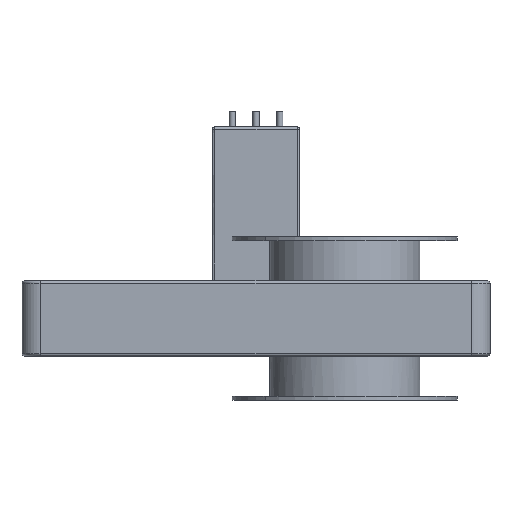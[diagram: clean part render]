
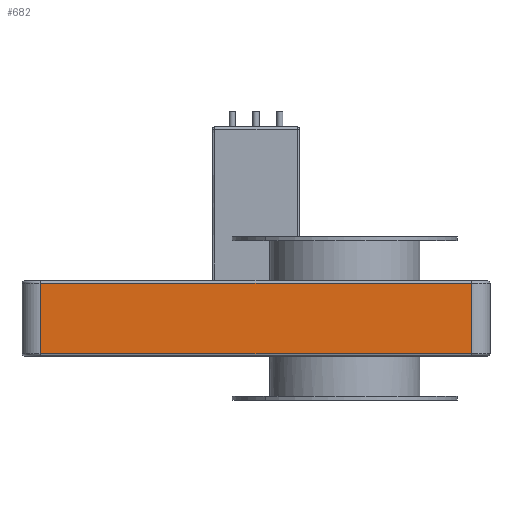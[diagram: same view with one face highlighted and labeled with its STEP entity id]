
A CAD part, front view. The second image highlights one B-rep face of the part: STEP entity #682.
In plain terms, the highlighted free-form (B-spline) face has degree [1, 1] with [2, 2] control points.
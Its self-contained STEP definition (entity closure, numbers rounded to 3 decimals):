
#627=CARTESIAN_POINT('',(-242.91,-95.5,-28.));
#628=VERTEX_POINT('',#627);
#637=CARTESIAN_POINT('',(-242.91,-95.5,28.));
#638=VERTEX_POINT('',#637);
#639=CARTESIAN_POINT('',(-242.91,-95.5,28.));
#640=CARTESIAN_POINT('',(-242.91,-95.5,-28.));
#641=B_SPLINE_CURVE_WITH_KNOTS('',1,(#639,#640),.POLYLINE_FORM.,.F.,.U.,(2,2),(0.033,0.967),.UNSPECIFIED.);
#642=EDGE_CURVE('',#638,#628,#641,.T.);
#655=CARTESIAN_POINT('',(-242.91,-95.5,30.));
#656=CARTESIAN_POINT('',(-242.91,-95.5,-30.));
#657=CARTESIAN_POINT('',(100.909,-95.5,30.));
#658=CARTESIAN_POINT('',(100.909,-95.5,-30.));
#659=B_SPLINE_SURFACE_WITH_KNOTS('',1,1,((#655,#656),(#657,#658)),.PLANE_SURF.,.F.,.F.,.U.,(2,2),(2,2),(0.,1.),(0.,1.),.UNSPECIFIED.);
#660=ORIENTED_EDGE('',*,*,#642,.F.);
#661=CARTESIAN_POINT('',(100.909,-95.5,28.));
#662=VERTEX_POINT('',#661);
#663=CARTESIAN_POINT('',(-242.91,-95.5,28.));
#664=CARTESIAN_POINT('',(100.909,-95.5,28.));
#665=B_SPLINE_CURVE_WITH_KNOTS('',1,(#663,#664),.POLYLINE_FORM.,.F.,.U.,(2,2),(0.,1.),.UNSPECIFIED.);
#666=EDGE_CURVE('',#638,#662,#665,.T.);
#667=ORIENTED_EDGE('',*,*,#666,.T.);
#668=CARTESIAN_POINT('',(100.909,-95.5,-28.));
#669=VERTEX_POINT('',#668);
#670=CARTESIAN_POINT('',(100.909,-95.5,28.));
#671=CARTESIAN_POINT('',(100.909,-95.5,-28.));
#672=B_SPLINE_CURVE_WITH_KNOTS('',1,(#670,#671),.POLYLINE_FORM.,.F.,.U.,(2,2),(0.033,0.967),.UNSPECIFIED.);
#673=EDGE_CURVE('',#662,#669,#672,.T.);
#674=ORIENTED_EDGE('',*,*,#673,.T.);
#675=CARTESIAN_POINT('',(-242.91,-95.5,-28.));
#676=CARTESIAN_POINT('',(100.909,-95.5,-28.));
#677=B_SPLINE_CURVE_WITH_KNOTS('',1,(#675,#676),.POLYLINE_FORM.,.F.,.U.,(2,2),(0.,1.),.UNSPECIFIED.);
#678=EDGE_CURVE('',#628,#669,#677,.T.);
#679=ORIENTED_EDGE('',*,*,#678,.F.);
#680=EDGE_LOOP('',(#660,#667,#674,#679));
#681=FACE_OUTER_BOUND('',#680,.F.);
#682=ADVANCED_FACE('',(#681),#659,.F.);
